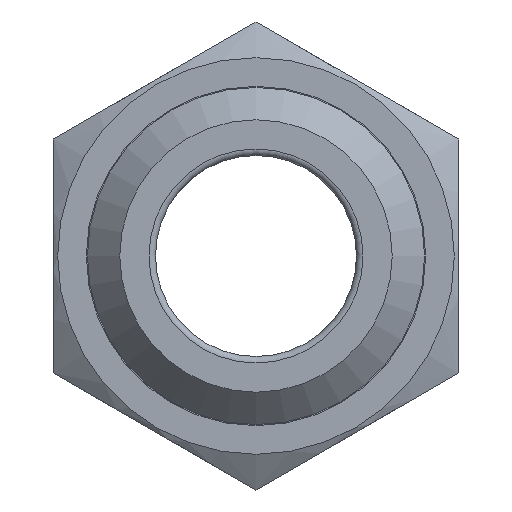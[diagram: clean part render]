
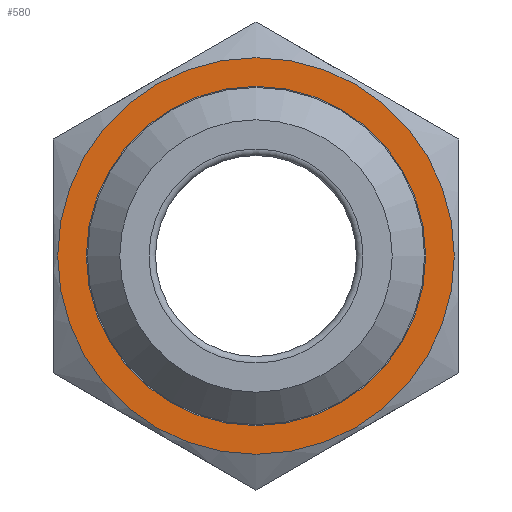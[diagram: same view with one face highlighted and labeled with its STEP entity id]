
A CAD part, front view. The second image highlights one B-rep face of the part: STEP entity #580.
In plain terms, the highlighted planar face has unit normal (0, -1, 0).
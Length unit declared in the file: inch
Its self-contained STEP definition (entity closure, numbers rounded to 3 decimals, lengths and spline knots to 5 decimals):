
#25=FACE_BOUND('',#156,.T.);
#77=CIRCLE('',#667,0.1835);
#78=CIRCLE('',#669,0.157);
#79=CIRCLE('',#670,0.157);
#118=FACE_OUTER_BOUND('',#155,.T.);
#155=EDGE_LOOP('',(#484));
#156=EDGE_LOOP('',(#485,#486));
#270=VERTEX_POINT('',#1047);
#271=VERTEX_POINT('',#1051);
#272=VERTEX_POINT('',#1052);
#348=EDGE_CURVE('',#270,#270,#77,.T.);
#350=EDGE_CURVE('',#271,#272,#78,.T.);
#351=EDGE_CURVE('',#272,#271,#79,.T.);
#484=ORIENTED_EDGE('',*,*,#348,.F.);
#485=ORIENTED_EDGE('',*,*,#350,.F.);
#486=ORIENTED_EDGE('',*,*,#351,.F.);
#555=PLANE('',#668);
#580=ADVANCED_FACE('',(#118,#25),#555,.T.);
#667=AXIS2_PLACEMENT_3D('',#1048,#830,#831);
#668=AXIS2_PLACEMENT_3D('',#1050,#833,#834);
#669=AXIS2_PLACEMENT_3D('',#1053,#835,#836);
#670=AXIS2_PLACEMENT_3D('',#1054,#837,#838);
#830=DIRECTION('center_axis',(0.,1.,0.));
#831=DIRECTION('ref_axis',(0.,0.,1.));
#833=DIRECTION('center_axis',(0.,-1.,0.));
#834=DIRECTION('ref_axis',(0.,0.,-1.));
#835=DIRECTION('center_axis',(0.,-1.,0.));
#836=DIRECTION('ref_axis',(1.,0.,0.));
#837=DIRECTION('center_axis',(0.,-1.,0.));
#838=DIRECTION('ref_axis',(1.,0.,0.));
#1047=CARTESIAN_POINT('',(0.,0.343,-0.1835));
#1048=CARTESIAN_POINT('Origin',(0.,0.343,0.));
#1050=CARTESIAN_POINT('Origin',(0.,0.343,-0.157));
#1051=CARTESIAN_POINT('',(0.,0.343,-0.157));
#1052=CARTESIAN_POINT('',(0.,0.343,0.157));
#1053=CARTESIAN_POINT('Origin',(0.,0.343,0.));
#1054=CARTESIAN_POINT('Origin',(0.,0.343,0.));
